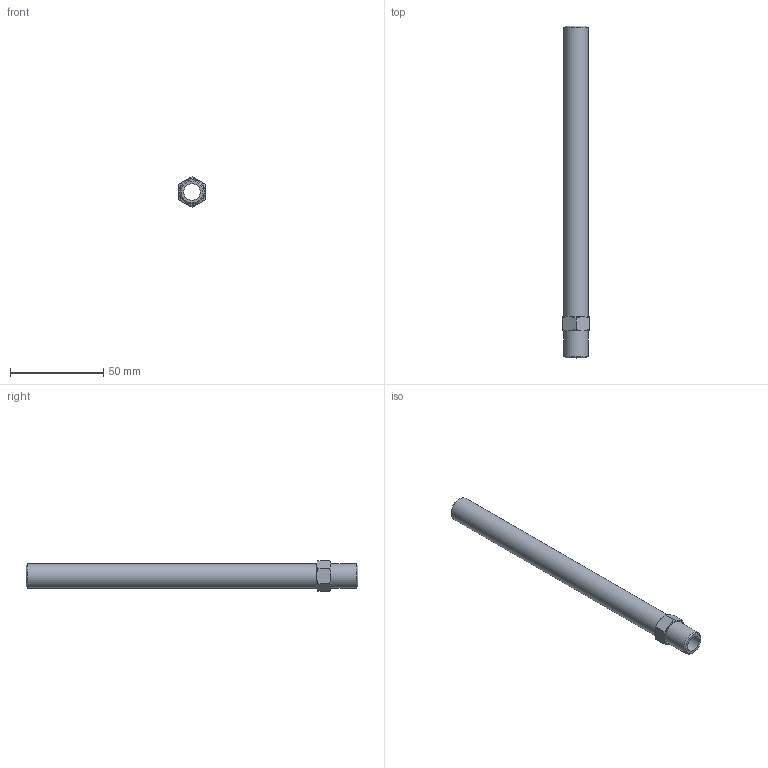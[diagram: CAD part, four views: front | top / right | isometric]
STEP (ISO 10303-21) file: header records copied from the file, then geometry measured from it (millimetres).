
FILE_DESCRIPTION(/* description */ (''),/* implementation_level */ '2;1');
FILE_NAME(/* name */ 'C:/Users/drich/Desktop/APN14-7 v1.step',/* time_stamp */ '2019-12-27T17:45:10-06:00',/* author */ (''),/* organization */ (''),/* preprocessor_version */ 'ST-DEVELOPER v18',/* originating_system */ 'Autodesk Translation Framework v8.12.0.6',/* authorisation */ '');
FILE_SCHEMA (('AUTOMOTIVE_DESIGN { 1 0 10303 214 3 1 1 }'));
Length unit declared in the file: inch
Products named in the file (1): APN14-7
Bounding box: 14.27 x 177.8 x 16.48 mm (x, y, z)
Volume: 13414 mm3; surface area: 12385.4 mm2
Topology: 1 solids, 1 shells, 17 faces, 39 edges, 26 vertices
Faces by surface type: plane 10, cone 4, cylinder 3
Full cylindrical faces by diameter (mm): 8.712 x1, 13.032 x2
Entity records: 521 total; most frequent: CARTESIAN_POINT 107, ORIENTED_EDGE 78, DIRECTION 77, EDGE_CURVE 39, AXIS2_PLACEMENT_3D 32, VERTEX_POINT 26, EDGE_LOOP 21, FACE_OUTER_BOUND 17
